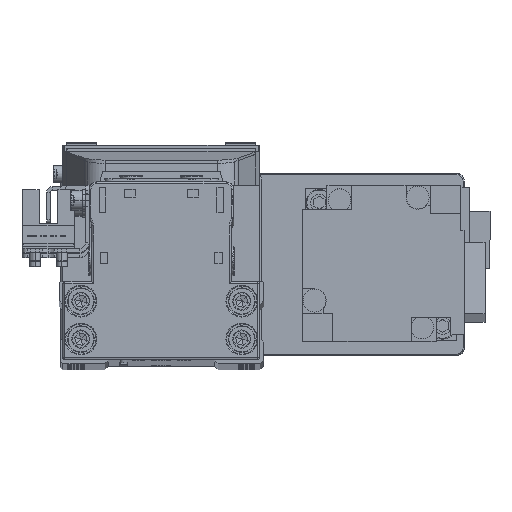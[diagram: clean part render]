
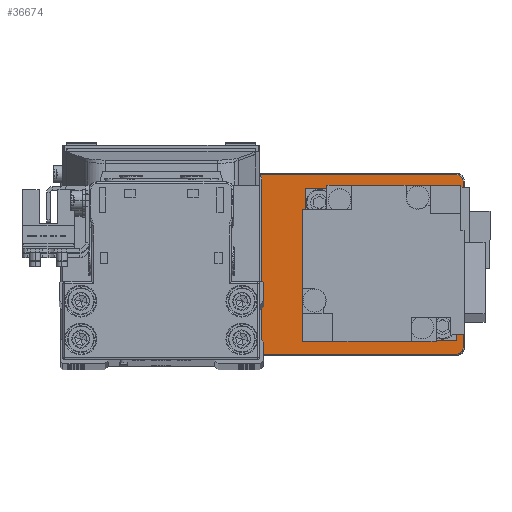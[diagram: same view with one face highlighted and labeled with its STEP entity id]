
A CAD part, top view. The second image highlights one B-rep face of the part: STEP entity #36674.
In plain terms, the highlighted planar face has unit normal (0, 0, 1).
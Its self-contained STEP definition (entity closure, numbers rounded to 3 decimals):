
#119 = DIRECTION ( 'NONE',  ( 0., 0., 1. ) ) ;
#734 = VERTEX_POINT ( 'NONE', #18173 ) ;
#1003 = EDGE_CURVE ( 'NONE', #30325, #38267, #28278, .T. ) ;
#1302 = AXIS2_PLACEMENT_3D ( 'NONE', #21604, #34185, #6029 ) ;
#1521 = DIRECTION ( 'NONE',  ( 0., 0., -1. ) ) ;
#1852 = AXIS2_PLACEMENT_3D ( 'NONE', #28252, #119, #12620 ) ;
#1976 = DIRECTION ( 'NONE',  ( 1., 0., 0. ) ) ;
#2383 = EDGE_CURVE ( 'NONE', #10199, #9280, #32287, .T. ) ;
#3212 = CARTESIAN_POINT ( 'NONE',  ( 50., -23.7, 5. ) ) ;
#3224 = LINE ( 'NONE', #15752, #37201 ) ;
#3248 = CARTESIAN_POINT ( 'NONE',  ( -51.7, 22., 5. ) ) ;
#3754 = ORIENTED_EDGE ( 'NONE', *, *, #30841, .T. ) ;
#4299 = DIRECTION ( 'NONE',  ( 0., 0., -1. ) ) ;
#4392 = CARTESIAN_POINT ( 'NONE',  ( 42.8, 0., 5. ) ) ;
#5050 = PLANE ( 'NONE',  #7153 ) ;
#5378 = CARTESIAN_POINT ( 'NONE',  ( 51.7, 22., 5. ) ) ;
#5782 = DIRECTION ( 'NONE',  ( 0., 0., 1. ) ) ;
#6029 = DIRECTION ( 'NONE',  ( 1., 0., 0. ) ) ;
#6845 = CARTESIAN_POINT ( 'NONE',  ( -50., 23.7, 5. ) ) ;
#6910 = DIRECTION ( 'NONE',  ( 0., -1., 0. ) ) ;
#7011 = ORIENTED_EDGE ( 'NONE', *, *, #22187, .T. ) ;
#7153 = AXIS2_PLACEMENT_3D ( 'NONE', #17563, #30125, #1976 ) ;
#7479 = VERTEX_POINT ( 'NONE', #3248 ) ;
#7640 = VECTOR ( 'NONE', #15745, 1000. ) ;
#8121 = FACE_BOUND ( 'NONE', #31130, .T. ) ;
#8257 = EDGE_CURVE ( 'NONE', #30991, #34911, #8361, .T. ) ;
#8264 = LINE ( 'NONE', #20788, #25465 ) ;
#8293 = AXIS2_PLACEMENT_3D ( 'NONE', #14736, #27262, #39837 ) ;
#8361 = CIRCLE ( 'NONE', #31353, 1.7 ) ;
#9280 = VERTEX_POINT ( 'NONE', #14645 ) ;
#9541 = VERTEX_POINT ( 'NONE', #10475 ) ;
#10199 = VERTEX_POINT ( 'NONE', #31133 ) ;
#10475 = CARTESIAN_POINT ( 'NONE',  ( -17.7, 0., 5. ) ) ;
#10541 = AXIS2_PLACEMENT_3D ( 'NONE', #13841, #26374, #38946 ) ;
#11246 = ORIENTED_EDGE ( 'NONE', *, *, #23307, .T. ) ;
#11380 = CIRCLE ( 'NONE', #34350, 12.8 ) ;
#11522 = EDGE_CURVE ( 'NONE', #14218, #7479, #25992, .T. ) ;
#11685 = EDGE_CURVE ( 'NONE', #9280, #30991, #31383, .T. ) ;
#12343 = ORIENTED_EDGE ( 'NONE', *, *, #8257, .T. ) ;
#12620 = DIRECTION ( 'NONE',  ( 1., 0., 0. ) ) ;
#13082 = CARTESIAN_POINT ( 'NONE',  ( -50., -22., 5. ) ) ;
#13841 = CARTESIAN_POINT ( 'NONE',  ( 30., 0., 5. ) ) ;
#14031 = DIRECTION ( 'NONE',  ( 1., 0., 0. ) ) ;
#14218 = VERTEX_POINT ( 'NONE', #6845 ) ;
#14425 = CARTESIAN_POINT ( 'NONE',  ( 51.7, -22., 5. ) ) ;
#14575 = AXIS2_PLACEMENT_3D ( 'NONE', #13082, #25617, #38197 ) ;
#14645 = CARTESIAN_POINT ( 'NONE',  ( -50., -23.7, 5. ) ) ;
#14736 = CARTESIAN_POINT ( 'NONE',  ( -50., 22., 5. ) ) ;
#15745 = DIRECTION ( 'NONE',  ( 1., 0., 0. ) ) ;
#15752 = CARTESIAN_POINT ( 'NONE',  ( 51.7, 22., 5. ) ) ;
#16274 = ORIENTED_EDGE ( 'NONE', *, *, #25581, .T. ) ;
#16821 = DIRECTION ( 'NONE',  ( 1., 0., 0. ) ) ;
#17153 = VERTEX_POINT ( 'NONE', #28531 ) ;
#17563 = CARTESIAN_POINT ( 'NONE',  ( 0., 0., 5. ) ) ;
#18173 = CARTESIAN_POINT ( 'NONE',  ( -38.3, 0., 5. ) ) ;
#18299 = DIRECTION ( 'NONE',  ( 1., 0., 0. ) ) ;
#18442 = ORIENTED_EDGE ( 'NONE', *, *, #11522, .T. ) ;
#18695 = CIRCLE ( 'NONE', #23971, 10.3 ) ;
#18827 = ORIENTED_EDGE ( 'NONE', *, *, #30364, .T. ) ;
#18986 = CIRCLE ( 'NONE', #1302, 10.3 ) ;
#19517 = CIRCLE ( 'NONE', #1852, 1.7 ) ;
#20219 = EDGE_CURVE ( 'NONE', #38267, #30325, #11380, .T. ) ;
#20638 = FACE_BOUND ( 'NONE', #34053, .T. ) ;
#20659 = ORIENTED_EDGE ( 'NONE', *, *, #20219, .T. ) ;
#20788 = CARTESIAN_POINT ( 'NONE',  ( -50., 23.7, 5. ) ) ;
#21604 = CARTESIAN_POINT ( 'NONE',  ( -28., 0., 5. ) ) ;
#22187 = EDGE_CURVE ( 'NONE', #9541, #734, #18695, .T. ) ;
#22515 = LINE ( 'NONE', #35085, #38107 ) ;
#23307 = EDGE_CURVE ( 'NONE', #34911, #33702, #3224, .T. ) ;
#23556 = CARTESIAN_POINT ( 'NONE',  ( 50., -23.7, 5. ) ) ;
#23839 = ORIENTED_EDGE ( 'NONE', *, *, #11685, .T. ) ;
#23971 = AXIS2_PLACEMENT_3D ( 'NONE', #29670, #1521, #14031 ) ;
#24678 = ORIENTED_EDGE ( 'NONE', *, *, #25253, .T. ) ;
#25253 = EDGE_CURVE ( 'NONE', #33702, #17153, #19517, .T. ) ;
#25465 = VECTOR ( 'NONE', #33363, 1000. ) ;
#25581 = EDGE_CURVE ( 'NONE', #17153, #14218, #8264, .T. ) ;
#25617 = DIRECTION ( 'NONE',  ( 0., 0., 1. ) ) ;
#25992 = CIRCLE ( 'NONE', #8293, 1.7 ) ;
#26374 = DIRECTION ( 'NONE',  ( 0., 0., -1. ) ) ;
#27262 = DIRECTION ( 'NONE',  ( 0., 0., 1. ) ) ;
#27525 = EDGE_LOOP ( 'NONE', ( #23839, #12343, #11246, #24678, #16274, #18442, #3754, #38320 ) ) ;
#27618 = CARTESIAN_POINT ( 'NONE',  ( 17.2, 0., 5. ) ) ;
#28252 = CARTESIAN_POINT ( 'NONE',  ( 50., 22., 5. ) ) ;
#28278 = CIRCLE ( 'NONE', #10541, 12.8 ) ;
#28300 = DIRECTION ( 'NONE',  ( 0., 1., 0. ) ) ;
#28531 = CARTESIAN_POINT ( 'NONE',  ( 50., 23.7, 5. ) ) ;
#29670 = CARTESIAN_POINT ( 'NONE',  ( -28., 0., 5. ) ) ;
#30125 = DIRECTION ( 'NONE',  ( 0., 0., 1. ) ) ;
#30325 = VERTEX_POINT ( 'NONE', #27618 ) ;
#30364 = EDGE_CURVE ( 'NONE', #734, #9541, #18986, .T. ) ;
#30841 = EDGE_CURVE ( 'NONE', #7479, #10199, #22515, .T. ) ;
#30991 = VERTEX_POINT ( 'NONE', #23556 ) ;
#31130 = EDGE_LOOP ( 'NONE', ( #20659, #35256 ) ) ;
#31133 = CARTESIAN_POINT ( 'NONE',  ( -51.7, -22., 5. ) ) ;
#31353 = AXIS2_PLACEMENT_3D ( 'NONE', #33943, #5782, #18299 ) ;
#31383 = LINE ( 'NONE', #3212, #7640 ) ;
#32287 = CIRCLE ( 'NONE', #14575, 1.7 ) ;
#32457 = CARTESIAN_POINT ( 'NONE',  ( 30., 0., 5. ) ) ;
#33201 = FACE_OUTER_BOUND ( 'NONE', #27525, .T. ) ;
#33363 = DIRECTION ( 'NONE',  ( -1., 0., 0. ) ) ;
#33702 = VERTEX_POINT ( 'NONE', #5378 ) ;
#33943 = CARTESIAN_POINT ( 'NONE',  ( 50., -22., 5. ) ) ;
#34053 = EDGE_LOOP ( 'NONE', ( #7011, #18827 ) ) ;
#34185 = DIRECTION ( 'NONE',  ( 0., 0., -1. ) ) ;
#34350 = AXIS2_PLACEMENT_3D ( 'NONE', #32457, #4299, #16821 ) ;
#34911 = VERTEX_POINT ( 'NONE', #14425 ) ;
#35085 = CARTESIAN_POINT ( 'NONE',  ( -51.7, -22., 5. ) ) ;
#35256 = ORIENTED_EDGE ( 'NONE', *, *, #1003, .T. ) ;
#36674 = ADVANCED_FACE ( 'NONE', ( #8121, #20638, #33201 ), #5050, .T. ) ;
#37201 = VECTOR ( 'NONE', #28300, 1000. ) ;
#38107 = VECTOR ( 'NONE', #6910, 1000. ) ;
#38197 = DIRECTION ( 'NONE',  ( 1., 0., 0. ) ) ;
#38267 = VERTEX_POINT ( 'NONE', #4392 ) ;
#38320 = ORIENTED_EDGE ( 'NONE', *, *, #2383, .T. ) ;
#38946 = DIRECTION ( 'NONE',  ( 1., 0., 0. ) ) ;
#39837 = DIRECTION ( 'NONE',  ( 1., 0., 0. ) ) ;
